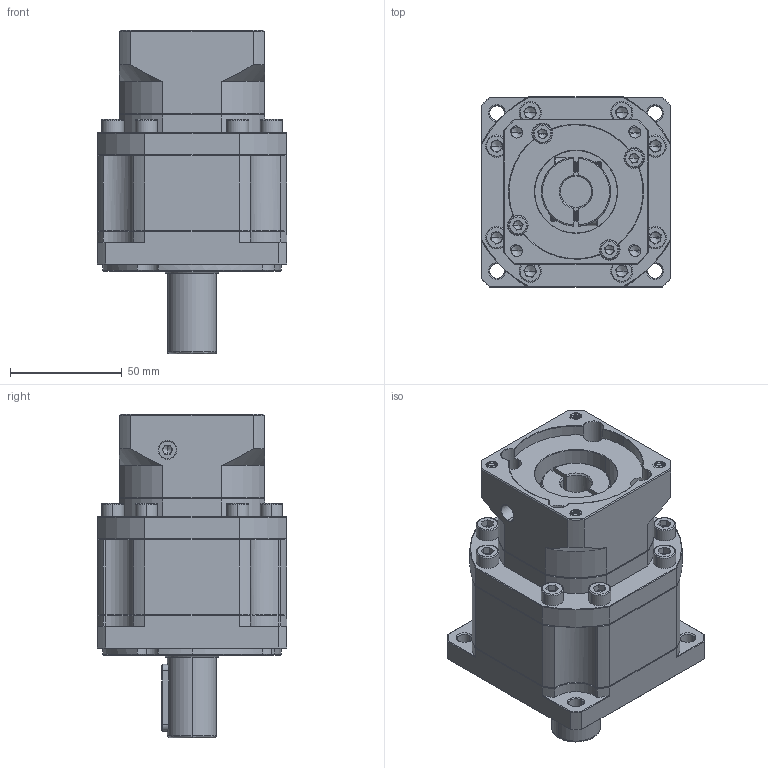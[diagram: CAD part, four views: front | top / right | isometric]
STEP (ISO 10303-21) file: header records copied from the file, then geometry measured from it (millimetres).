
FILE_DESCRIPTION (( 'STEP AP214' ), '1' );
FILE_NAME ('ZB90-D22-L2-14-60-75-M6.STEP', '2022-05-02T15:29:01', ( '' ), ( 'Microsoft' ), 'SwSTEP 2.0', 'SolidWorks 2016', '' );
FILE_SCHEMA (( 'AUTOMOTIVE_DESIGN' ));
Length unit declared in the file: millimetre
Products named in the file (1): ZB90-D22-L2-14-60-75-M6
Bounding box: 85 x 85 x 145 mm (x, y, z)
Volume: 540403.7 mm3; surface area: 76898 mm2
Topology: 6 solids, 6 shells, 2086 faces, 5473 edges, 3474 vertices
Faces by surface type: plane 1005, cylinder 405, bspline 328, cone 326, torus 22
Entity records: 110043 total; most frequent: CARTESIAN_POINT 38323, ORIENTED_EDGE 10854, DIRECTION 9007, EDGE_CURVE 5427, VERTEX_POINT 3474, VECTOR 3337, LINE 3337, AXIS2_PLACEMENT_3D 2835
